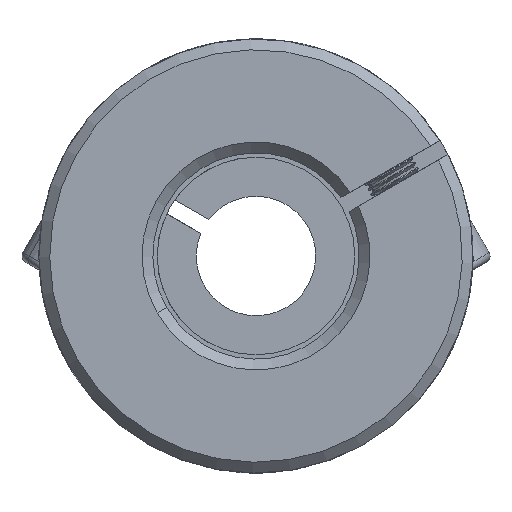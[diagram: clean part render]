
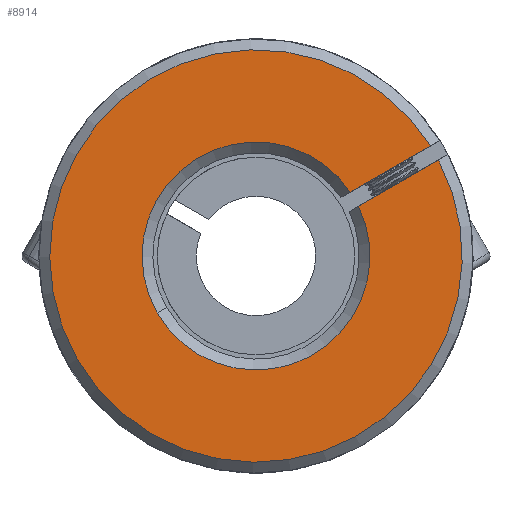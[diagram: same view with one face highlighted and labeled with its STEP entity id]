
A CAD part, front view. The second image highlights one B-rep face of the part: STEP entity #8914.
In plain terms, the highlighted planar face has unit normal (0, -1, 0).
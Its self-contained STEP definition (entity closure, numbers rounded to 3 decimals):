
#132 = ORIENTED_EDGE ( 'NONE', *, *, #3481, .F. ) ;
#238 = CARTESIAN_POINT ( 'NONE',  ( -1.447, -31.239, 40. ) ) ;
#656 = VECTOR ( 'NONE', #13659, 1000. ) ;
#951 = EDGE_CURVE ( 'NONE', #3878, #10836, #5945, .T. ) ;
#1353 = FACE_OUTER_BOUND ( 'NONE', #2399, .T. ) ;
#1804 = DIRECTION ( 'NONE',  ( 0.5, 0., -0.866 ) ) ;
#2114 = CARTESIAN_POINT ( 'NONE',  ( 15.367, -31.239, 48.848 ) ) ;
#2399 = EDGE_LOOP ( 'NONE', ( #132, #10194, #10915, #5900, #2676 ) ) ;
#2554 = DIRECTION ( 'NONE',  ( 0.5, 0., -0.866 ) ) ;
#2676 = ORIENTED_EDGE ( 'NONE', *, *, #4154, .T. ) ;
#2761 = CARTESIAN_POINT ( 'NONE',  ( 52.98, -31.239, 45.743 ) ) ;
#2795 = AXIS2_PLACEMENT_3D ( 'NONE', #2761, #12585, #1804 ) ;
#3210 = CARTESIAN_POINT ( 'NONE',  ( -10.539, -31.239, 34.747 ) ) ;
#3481 = EDGE_CURVE ( 'NONE', #3878, #7053, #8585, .T. ) ;
#3878 = VERTEX_POINT ( 'NONE', #11244 ) ;
#4154 = EDGE_CURVE ( 'NONE', #11129, #7053, #11730, .T. ) ;
#4720 = LINE ( 'NONE', #8480, #11612 ) ;
#5900 = ORIENTED_EDGE ( 'NONE', *, *, #9594, .F. ) ;
#5945 = CIRCLE ( 'NONE', #7241, 10.5 ) ;
#5970 = PLANE ( 'NONE',  #2795 ) ;
#6474 = EDGE_CURVE ( 'NONE', #10836, #9079, #7691, .T. ) ;
#6673 = AXIS2_PLACEMENT_3D ( 'NONE', #7957, #11189, #2554 ) ;
#7053 = VERTEX_POINT ( 'NONE', #2114 ) ;
#7210 = CARTESIAN_POINT ( 'NONE',  ( 14.616, -31.239, 50.147 ) ) ;
#7241 = AXIS2_PLACEMENT_3D ( 'NONE', #238, #10976, #10887 ) ;
#7691 = CIRCLE ( 'NONE', #6673, 10.5 ) ;
#7957 = CARTESIAN_POINT ( 'NONE',  ( -1.447, -31.239, 40. ) ) ;
#8385 = AXIS2_PLACEMENT_3D ( 'NONE', #8574, #10869, #11755 ) ;
#8480 = CARTESIAN_POINT ( 'NONE',  ( 6.378, -31.239, 45.387 ) ) ;
#8574 = CARTESIAN_POINT ( 'NONE',  ( -1.447, -31.239, 40. ) ) ;
#8585 = LINE ( 'NONE', #10321, #656 ) ;
#8914 = ADVANCED_FACE ( 'NONE', ( #1353 ), #5970, .F. ) ;
#9079 = VERTEX_POINT ( 'NONE', #11946 ) ;
#9593 = DIRECTION ( 'NONE',  ( -0.866, 0., -0.5 ) ) ;
#9594 = EDGE_CURVE ( 'NONE', #11129, #9079, #4720, .T. ) ;
#10194 = ORIENTED_EDGE ( 'NONE', *, *, #951, .T. ) ;
#10321 = CARTESIAN_POINT ( 'NONE',  ( 7.128, -31.239, 44.088 ) ) ;
#10836 = VERTEX_POINT ( 'NONE', #3210 ) ;
#10869 = DIRECTION ( 'NONE',  ( 0., -1., 0. ) ) ;
#10887 = DIRECTION ( 'NONE',  ( 0.5, 0., -0.866 ) ) ;
#10915 = ORIENTED_EDGE ( 'NONE', *, *, #6474, .T. ) ;
#10976 = DIRECTION ( 'NONE',  ( 0., 1., 0. ) ) ;
#11129 = VERTEX_POINT ( 'NONE', #7210 ) ;
#11189 = DIRECTION ( 'NONE',  ( 0., 1., 0. ) ) ;
#11244 = CARTESIAN_POINT ( 'NONE',  ( 7.997, -31.239, 44.59 ) ) ;
#11612 = VECTOR ( 'NONE', #9593, 1000. ) ;
#11730 = CIRCLE ( 'NONE', #8385, 19. ) ;
#11755 = DIRECTION ( 'NONE',  ( 0.5, 0., -0.866 ) ) ;
#11946 = CARTESIAN_POINT ( 'NONE',  ( 7.246, -31.239, 45.889 ) ) ;
#12585 = DIRECTION ( 'NONE',  ( 0., 1., 0. ) ) ;
#13659 = DIRECTION ( 'NONE',  ( 0.866, 0., 0.5 ) ) ;
